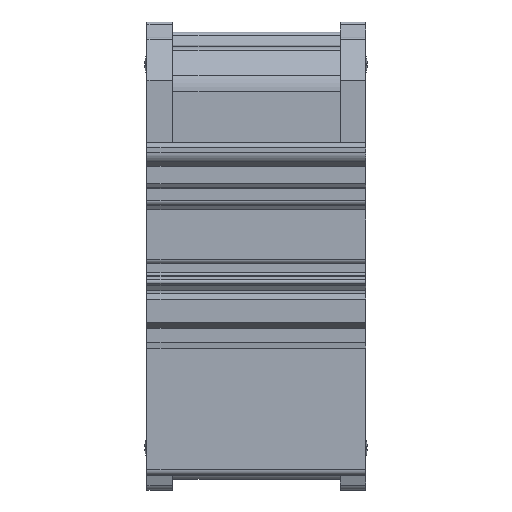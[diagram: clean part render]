
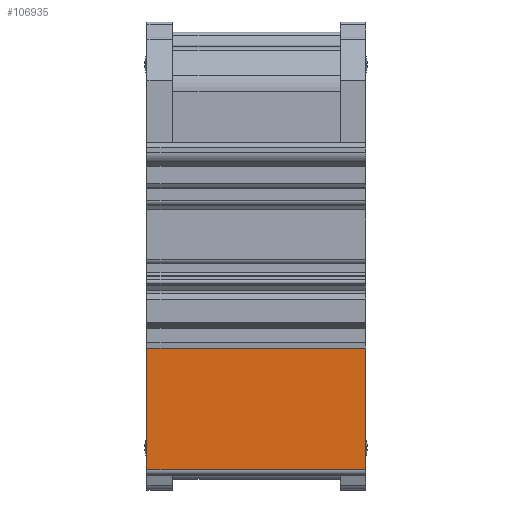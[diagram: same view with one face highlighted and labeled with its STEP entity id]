
A CAD part, front view. The second image highlights one B-rep face of the part: STEP entity #106935.
In plain terms, the highlighted planar face has unit normal (0, -1, 0).
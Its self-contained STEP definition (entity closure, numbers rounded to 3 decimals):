
#2751 = LINE ( 'NONE', #12535, #24014 ) ;
#3957 = CARTESIAN_POINT ( 'NONE',  ( -19.81, -18.428, 42.971 ) ) ;
#6246 = EDGE_CURVE ( 'NONE', #111616, #110993, #83557, .T. ) ;
#11831 = FACE_OUTER_BOUND ( 'NONE', #114530, .T. ) ;
#12122 = VECTOR ( 'NONE', #103346, 1000. ) ;
#12535 = CARTESIAN_POINT ( 'NONE',  ( 20.59, -18.428, 42.971 ) ) ;
#12559 = EDGE_CURVE ( 'NONE', #55804, #110993, #2751, .T. ) ;
#12794 = PLANE ( 'NONE',  #93195 ) ;
#13177 = CARTESIAN_POINT ( 'NONE',  ( -19.81, -18.428, 42.971 ) ) ;
#16363 = ORIENTED_EDGE ( 'NONE', *, *, #17202, .T. ) ;
#17202 = EDGE_CURVE ( 'NONE', #27112, #55804, #60307, .T. ) ;
#18695 = VECTOR ( 'NONE', #81604, 1000. ) ;
#21548 = LINE ( 'NONE', #72456, #18695 ) ;
#24014 = VECTOR ( 'NONE', #103171, 1000. ) ;
#27112 = VERTEX_POINT ( 'NONE', #115756 ) ;
#35356 = VECTOR ( 'NONE', #94114, 1000. ) ;
#49575 = DIRECTION ( 'NONE',  ( 0., 1., 0. ) ) ;
#52066 = CARTESIAN_POINT ( 'NONE',  ( -19.81, -18.428, 65.471 ) ) ;
#55804 = VERTEX_POINT ( 'NONE', #108893 ) ;
#60307 = LINE ( 'NONE', #3957, #12122 ) ;
#66758 = CARTESIAN_POINT ( 'NONE',  ( -19.81, -18.428, 65.471 ) ) ;
#68409 = CARTESIAN_POINT ( 'NONE',  ( 20.59, -18.428, 65.471 ) ) ;
#72456 = CARTESIAN_POINT ( 'NONE',  ( -19.81, -18.428, 42.971 ) ) ;
#81604 = DIRECTION ( 'NONE',  ( 0., 0., 1. ) ) ;
#82038 = ORIENTED_EDGE ( 'NONE', *, *, #116089, .F. ) ;
#83557 = LINE ( 'NONE', #66758, #35356 ) ;
#93195 = AXIS2_PLACEMENT_3D ( 'NONE', #13177, #49575, #112973 ) ;
#94114 = DIRECTION ( 'NONE',  ( 1., 0., 0. ) ) ;
#95387 = ORIENTED_EDGE ( 'NONE', *, *, #12559, .T. ) ;
#103171 = DIRECTION ( 'NONE',  ( 0., 0., 1. ) ) ;
#103346 = DIRECTION ( 'NONE',  ( 1., 0., 0. ) ) ;
#106316 = ORIENTED_EDGE ( 'NONE', *, *, #6246, .F. ) ;
#106935 = ADVANCED_FACE ( 'NONE', ( #11831 ), #12794, .F. ) ;
#108893 = CARTESIAN_POINT ( 'NONE',  ( 20.59, -18.428, 42.971 ) ) ;
#110993 = VERTEX_POINT ( 'NONE', #68409 ) ;
#111616 = VERTEX_POINT ( 'NONE', #52066 ) ;
#112973 = DIRECTION ( 'NONE',  ( 0., 0., 1. ) ) ;
#114530 = EDGE_LOOP ( 'NONE', ( #16363, #95387, #106316, #82038 ) ) ;
#115756 = CARTESIAN_POINT ( 'NONE',  ( -19.81, -18.428, 42.971 ) ) ;
#116089 = EDGE_CURVE ( 'NONE', #27112, #111616, #21548, .T. ) ;
